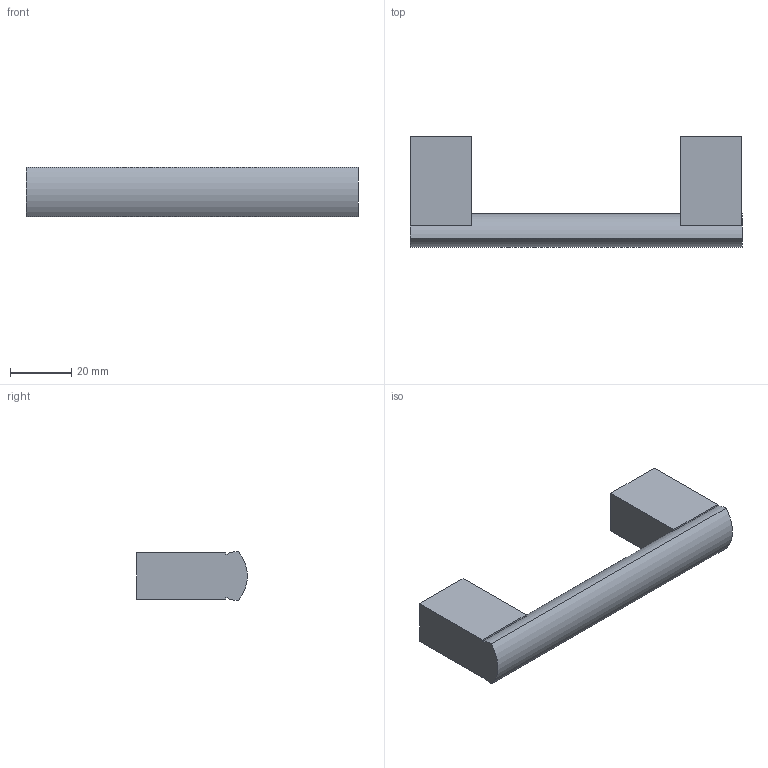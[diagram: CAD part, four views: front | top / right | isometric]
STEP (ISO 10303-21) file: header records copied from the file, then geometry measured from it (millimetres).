
FILE_DESCRIPTION( ( 'STEP AP214' ), '1' );
FILE_NAME( 'D:/Shahbaz D&D/Task/Check and correct handles with 3 drill sockets/Clivia/115205.stp', '2023-02-20T10:32:20', ( '' ), ( '' ), ' ', 'PARTsolutions', ' ' );
FILE_SCHEMA( ( 'AUTOMOTIVE_DESIGN { 1 0 10303 214 1 1 1 1 }' ) );
Length unit declared in the file: millimetre
Products named in the file (1): _115205
Bounding box: 108 x 35.96 x 16 mm (x, y, z)
Volume: 30035.3 mm3; surface area: 8946.2 mm2
Topology: 1 solids, 1 shells, 21 faces, 48 edges, 32 vertices
Faces by surface type: plane 17, cylinder 4
Full cylindrical faces by diameter (mm): 4 x2
Entity records: 768 total; most frequent: DIRECTION 102, CARTESIAN_POINT 100, ORIENTED_EDGE 92, EDGE_CURVE 46, AXIS2_PLACEMENT_3D 34, LINE 34, VECTOR 34, VERTEX_POINT 32
